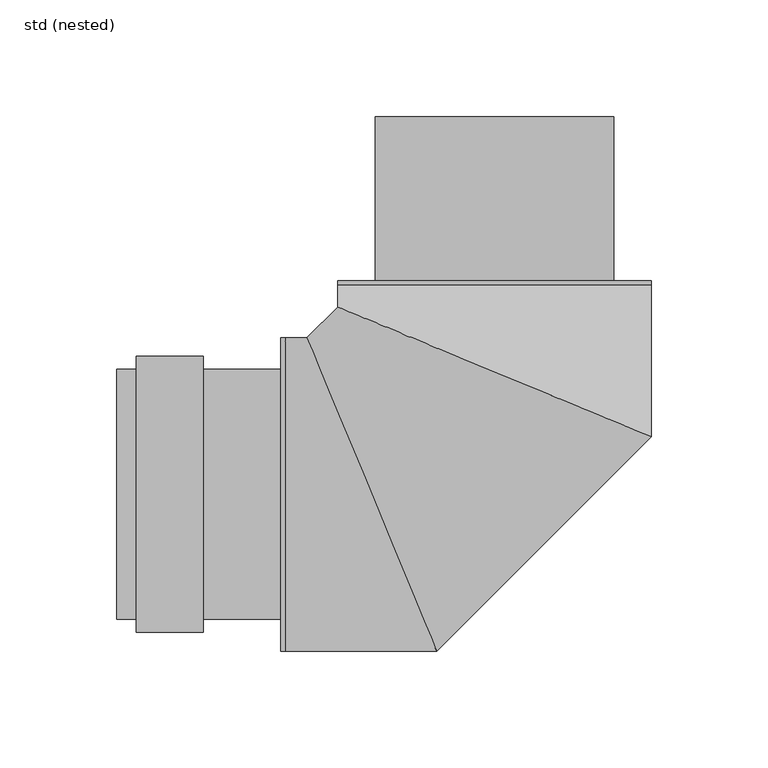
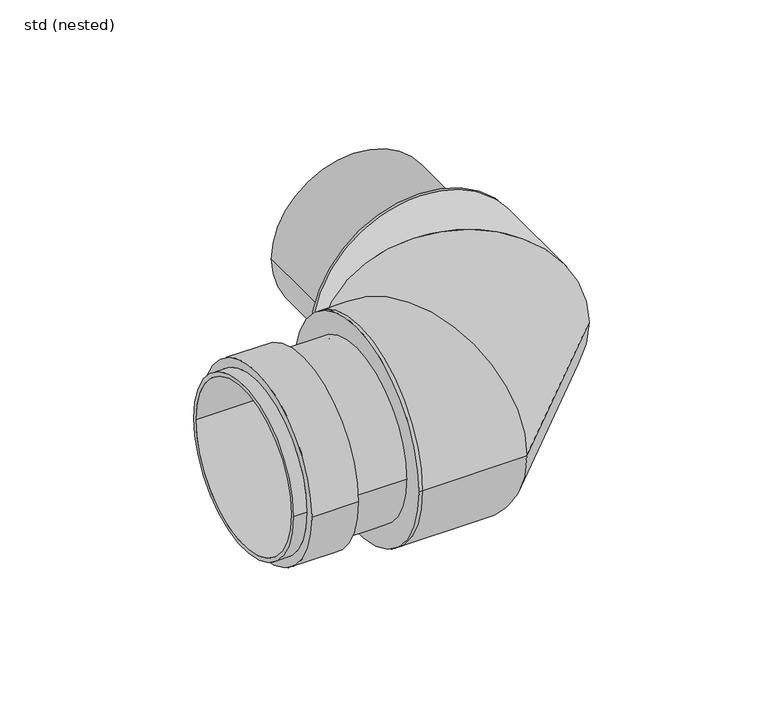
"""IFC4 building model written with IfcOpenShell, lengths in millimetres: pipe fitting geometry, ZZZ_do not use_PIF_ST_WPB_GM-X compound pipe bend_ACO : std (nested)."""

from ifc_helpers import new_model, si_unit, point, frame, origin, origin_2d, place, context, project, spatial, polyline, circle_curve, ellipse_curve, trimmed, segment, composite_curve, outline, extrude, source, transform, mapped, element, save
from ifc_brep_helpers import plane_surface, cylinder_surface, revolved_surface, advanced_brep


def std_nested_869c05a1(model_context):
    return source(origin(), model_context, "Body", "SolidModel", [
        advanced_brep(
        [(-153.1, -59.0, 0.0), (-153.1, 59.0, 0.0), (-124.4, 59.0, 0.0), (-124.4, -59.0, 0.0), (-161.4, 53.5, 0.0), (-161.4, -53.5, 0.0), (-161.4, -51.0, 0.0), (-161.4, 51.0, 0.0), (-91.4, 53.5, 0.0), (-91.4, -53.5, 0.0), (-91.4, 51.0, 0.0), (-91.4, -51.0, 0.0), (-153.1, 53.5, 0.0), (-153.1, -53.5, 0.0), (-124.4, -53.5, 0.0), (-124.4, 53.5, 0.0)],
        [
            (0, 1, circle_curve(frame((-153.1, 0.0, 0.0), z_axis=(1.0, 0.0, 0.0), x_axis=(0.0, -1.0, 0.0)), 59.0)),
            (1, 2),
            (2, 3, circle_curve(frame((-124.4, 0.0, 0.0), z_axis=(-1.0, 0.0, 0.0), x_axis=(0.0, -1.0, 0.0)), 59.0)),
            (3, 0),
            (1, 0, circle_curve(frame((-153.1, 0.0, 0.0), z_axis=(1.0, 0.0, 0.0), x_axis=(0.0, -1.0, 0.0)), 59.0)),
            (3, 2, circle_curve(frame((-124.4, 0.0, 0.0), z_axis=(-1.0, 0.0, 0.0), x_axis=(0.0, -1.0, 0.0)), 59.0)),
            (4, 5, circle_curve(frame((-161.4, 0.0, 0.0), z_axis=(-1.0, 0.0, 0.0), x_axis=(0.0, -1.0, 0.0)), 53.5)),
            (5, 4, circle_curve(frame((-161.4, 0.0, 0.0), z_axis=(-1.0, 0.0, 0.0), x_axis=(0.0, -1.0, 0.0)), 53.5)),
            (6, 7, circle_curve(frame((-161.4, 0.0, 0.0), z_axis=(1.0, 0.0, 0.0), x_axis=(0.0, -1.0, 0.0)), 51.0)),
            (7, 6, circle_curve(frame((-161.4, 0.0, 0.0), z_axis=(1.0, 0.0, 0.0), x_axis=(0.0, -1.0, 0.0)), 51.0)),
            (8, 9, circle_curve(frame((-91.4, 0.0, 0.0), z_axis=(1.0, 0.0, 0.0), x_axis=(0.0, -1.0, 0.0)), 53.5)),
            (9, 8, circle_curve(frame((-91.4, 0.0, 0.0), z_axis=(1.0, 0.0, 0.0), x_axis=(0.0, -1.0, 0.0)), 53.5)),
            (10, 11, circle_curve(frame((-91.4, 0.0, 0.0), z_axis=(-1.0, 0.0, 0.0), x_axis=(0.0, -1.0, 0.0)), 51.0)),
            (11, 10, circle_curve(frame((-91.4, 0.0, 0.0), z_axis=(-1.0, 0.0, 0.0), x_axis=(0.0, -1.0, 0.0)), 51.0)),
            (4, 12),
            (12, 13, circle_curve(frame((-153.1, 0.0, 0.0), z_axis=(-1.0, 0.0, 0.0), x_axis=(0.0, -1.0, 0.0)), 53.5)),
            (13, 5),
            (9, 14),
            (14, 15, circle_curve(frame((-124.4, 0.0, 0.0), z_axis=(1.0, 0.0, 0.0), x_axis=(0.0, -1.0, 0.0)), 53.5)),
            (15, 8),
            (13, 12, circle_curve(frame((-153.1, 0.0, 0.0), z_axis=(-1.0, 0.0, 0.0), x_axis=(0.0, -1.0, 0.0)), 53.5)),
            (15, 14, circle_curve(frame((-124.4, 0.0, 0.0), z_axis=(1.0, 0.0, 0.0), x_axis=(0.0, -1.0, 0.0)), 53.5)),
            (6, 11),
            (10, 7),
        ],
        [
            cylinder_surface(frame((-124.4, 0.0, 0.0), z_axis=(-1.0, 0.0, 0.0), x_axis=(0.0, -1.0, 0.0)), 59.0),
            plane_surface(frame((-161.4, -53.5, 0.0), z_axis=(-1.0, 0.0, 0.0), x_axis=(0.0, 0.0, 1.0))),
            plane_surface(frame((-91.4, -53.5, 0.0), z_axis=(1.0, 0.0, 0.0), x_axis=(0.0, 0.0, -1.0))),
            cylinder_surface(frame((-91.4, 0.0, 0.0), z_axis=(-1.0, 0.0, 0.0), x_axis=(0.0, -1.0, 0.0)), 53.5),
            revolved_surface(polyline([(-161.4, -51.0, 0.0), (-91.4, -51.0, 0.0)]), (-91.4, 0.0, 0.0), (-1.0, 0.0, 0.0)),
            plane_surface(frame((-153.1, -59.0, 0.0), z_axis=(-1.0, 0.0, 0.0), x_axis=(0.0, 0.0, 1.0))),
            plane_surface(frame((-124.4, -59.0, 0.0), z_axis=(1.0, 0.0, 0.0), x_axis=(0.0, 0.0, -1.0))),
        ],
        [
            (0, [[1, 2, 3, 4]]),
            (0, [[5, -4, 6, -2]]),
            (1, [[7, 8], [9, 10]]),
            (2, [[11, 12], [13, 14]]),
            (3, [[-7, 15, 16, 17]]),
            (3, [[-12, 18, 19, 20]]),
            (3, [[-8, -17, 21, -15]]),
            (3, [[-11, -20, 22, -18]]),
            (4, [[23, -13, 24, -9]]),
            (4, [[-23, -10, -24, -14]]),
            (5, [[-1, -5], [-16, -21]]),
            (6, [[-6, -3], [-19, -22]]),
        ],
    ),
        extrude(outline(composite_curve([segment(trimmed(circle_curve(origin_2d(), 51.0), [point((0.0, -51.0))], [point((0.0, 51.0))], False, "CARTESIAN"), True, "CONTINUOUS"), segment(trimmed(circle_curve(origin_2d(), 51.0), [point((0.0, 51.0))], [point((0.0, -51.0))], False, "CARTESIAN"), True, "CONTINUOUS")], self_intersect=False)), frame((0.0, 91.4, 0.0), z_axis=(0.0, 1.0, 0.0), x_axis=(0.0, 0.0, 1.0)), (0.0, 0.0, 1.0), 70.0),
        advanced_brep(
        [(-89.4, -67.0, 0.0), (-89.4, 67.0, 0.0), (-91.4, 67.0, 0.0), (-91.4, -67.0, 0.0), (-24.6169988, -67.0, 0.0), (-80.1216162, 67.0, 0.0), (67.0, 24.6169988, 0.0), (-67.0, 80.1216162, 0.0), (67.0, 89.4, 0.0), (-67.0, 89.4, 0.0), (-67.0, 91.4, 0.0), (67.0, 91.4, 0.0)],
        [
            (0, 1, circle_curve(frame((-89.4, 0.0, 0.0), z_axis=(-1.0, 0.0, 0.0), x_axis=(0.0, 1.0, 0.0)), 67.0)),
            (1, 2),
            (2, 3, circle_curve(frame((-91.4, 0.0, 0.0), z_axis=(1.0, 0.0, 0.0), x_axis=(0.0, 1.0, 0.0)), 67.0)),
            (3, 0),
            (1, 0, circle_curve(frame((-89.4, 0.0, 0.0), z_axis=(-1.0, 0.0, 0.0), x_axis=(0.0, 1.0, 0.0)), 67.0)),
            (3, 2, circle_curve(frame((-91.4, 0.0, 0.0), z_axis=(1.0, 0.0, 0.0), x_axis=(0.0, 1.0, 0.0)), 67.0)),
            (0, 4),
            (4, 5, ellipse_curve(frame((-52.3693075, 0.0, 0.0), z_axis=(-0.9238795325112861, -0.3826834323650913, 0.0), x_axis=(-0.38268343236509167, 0.9238795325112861, 0.0)), 72.5202774, 67.0)),
            (5, 1),
            (5, 4, ellipse_curve(frame((-52.3693075, 0.0, 0.0), z_axis=(-0.9238795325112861, -0.3826834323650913, 0.0), x_axis=(-0.38268343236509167, 0.9238795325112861, 0.0)), 72.5202774, 67.0)),
            (4, 6),
            (6, 7, ellipse_curve(frame((0.0, 52.3693075, 0.0), z_axis=(-0.3826834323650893, -0.9238795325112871, 0.0), x_axis=(-0.9238795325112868, 0.3826834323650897, 0.0)), 72.5202774, 67.0)),
            (7, 5),
            (7, 6, ellipse_curve(frame((0.0, 52.3693075, 0.0), z_axis=(-0.3826834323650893, -0.9238795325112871, 0.0), x_axis=(-0.9238795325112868, 0.3826834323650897, 0.0)), 72.5202774, 67.0)),
            (6, 8),
            (8, 9, circle_curve(frame((0.0, 89.4, 0.0), z_axis=(0.0, -1.0, 0.0), x_axis=(-1.0, 0.0, 0.0)), 67.0)),
            (9, 7),
            (9, 8, circle_curve(frame((0.0, 89.4, 0.0), z_axis=(0.0, -1.0, 0.0), x_axis=(-1.0, 0.0, 0.0)), 67.0)),
            (10, 11, circle_curve(frame((0.0, 91.4, 0.0), z_axis=(0.0, 1.0, 0.0), x_axis=(1.0, 0.0, 0.0)), 67.0)),
            (11, 10, circle_curve(frame((0.0, 91.4, 0.0), z_axis=(0.0, 1.0, 0.0), x_axis=(1.0, 0.0, 0.0)), 67.0)),
            (8, 11),
            (10, 9),
        ],
        [
            cylinder_surface(frame((-89.4, 0.0, 0.0), z_axis=(-1.0, 0.0, 0.0), x_axis=(0.0, 1.0, 0.0)), 67.0),
            cylinder_surface(frame((-52.3693075, 0.0, 0.0), z_axis=(-0.7071067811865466, -0.7071067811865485, 0.0), x_axis=(-0.7071067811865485, 0.7071067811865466, 0.0)), 67.0),
            cylinder_surface(frame((0.0, 52.3693075, 0.0), z_axis=(0.0, -1.0, 0.0), x_axis=(-1.0, 0.0, 0.0)), 67.0),
            plane_surface(frame((-91.4, 67.0, 0.0), z_axis=(-1.0, 0.0, 0.0), x_axis=(0.0, 0.0, 1.0))),
            plane_surface(frame((67.0, 91.4, 0.0), z_axis=(0.0, 1.0, 0.0), x_axis=(0.0, 0.0, 1.0))),
            cylinder_surface(frame((0.0, 89.4, 0.0), z_axis=(0.0, 1.0, 0.0), x_axis=(1.0, 0.0, 0.0)), 67.0),
        ],
        [
            (0, [[1, 2, 3, 4]]),
            (0, [[5, -4, 6, -2]]),
            (0, [[7, 8, 9, -1]]),
            (0, [[-7, -5, -9, 10]]),
            (1, [[-8, 11, 12, 13]]),
            (1, [[-10, -13, 14, -11]]),
            (2, [[-12, 15, 16, 17]]),
            (2, [[-14, -17, 18, -15]]),
            (3, [[-3, -6]]),
            (4, [[19, 20]]),
            (5, [[-16, 21, -19, 22]]),
            (5, [[-18, -22, -20, -21]]),
        ],
    ),
    ])


if __name__ == "__main__":
    model = new_model("IFC4")
    model_context = context("Model", 3, world=origin())
    ifc_project = project(units=[si_unit("LENGTHUNIT", "METRE", prefix="MILLI")], contexts=[model_context])
    site = spatial("IfcSite", under=ifc_project)
    building = spatial("IfcBuilding", under=site)
    placement = place(None, origin())
    std_nested_shape = std_nested_869c05a1(model_context)
    element("IfcPipeFitting", 1, ObjectType="ZZZ_do not use_PIF_ST_WPB_GM-X compound pipe bend_ACO : std (nested)", at=placement, inside=building, context=model_context, shape_type="MappedRepresentation", body=[
        mapped(std_nested_shape, transform((0.0, 0.0, 0.0), x_axis=(1.0, 0.0, 0.0), y_axis=(0.0, 1.0, 0.0), z_axis=(0.0, 0.0, 1.0))),
    ])
    save(model, "model.ifc")
